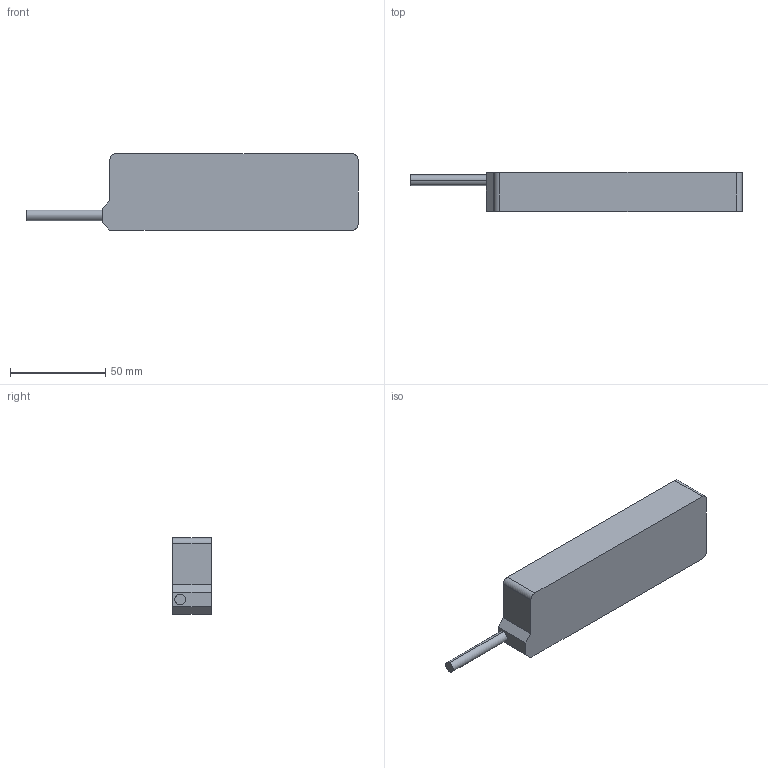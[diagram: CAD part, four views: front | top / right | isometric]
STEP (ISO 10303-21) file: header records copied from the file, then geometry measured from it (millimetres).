
FILE_DESCRIPTION (( 'STEP AP203' ), '1' );
FILE_NAME ('DPN40C4.STEP', '2017-12-15T06:49:57', ( 'Windows 蚚誧' ), ( '' ), 'SwSTEP 2.0', 'SolidWorks 2016', '' );
FILE_SCHEMA (( 'CONFIG_CONTROL_DESIGN' ));
Length unit declared in the file: millimetre
Products named in the file (1): DPN40C4
Bounding box: 174 x 20.4 x 40 mm (x, y, z)
Volume: 107657.2 mm3; surface area: 18528.2 mm2
Topology: 1 solids, 1 shells, 63 faces, 156 edges, 84 vertices
Faces by surface type: cylinder 29, cone 24, plane 10
Entity records: 1765 total; most frequent: DIRECTION 318, CARTESIAN_POINT 280, ORIENTED_EDGE 264, EDGE_CURVE 132, AXIS2_PLACEMENT_3D 122, VERTEX_POINT 84, EDGE_LOOP 76, LINE 74
